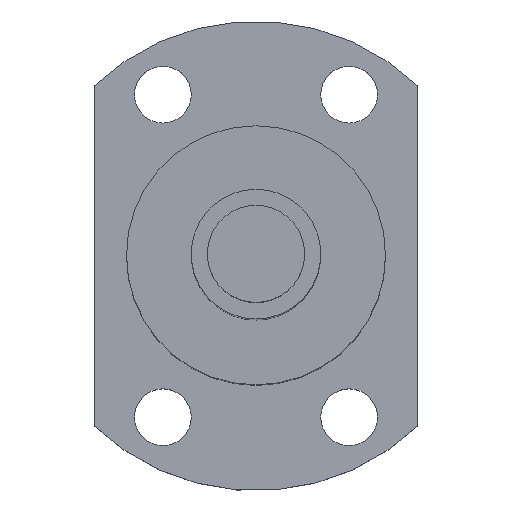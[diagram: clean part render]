
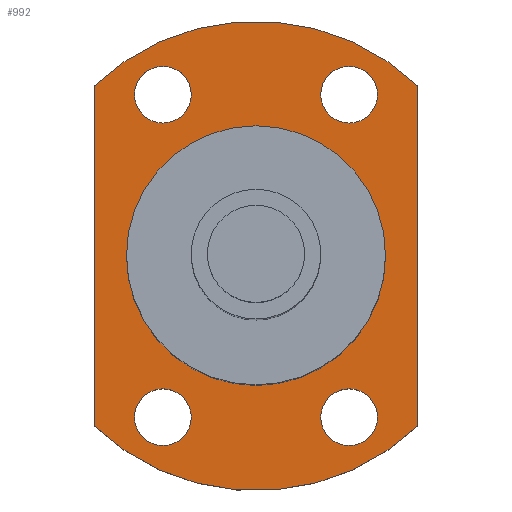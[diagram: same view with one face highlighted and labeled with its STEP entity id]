
A CAD part, top view. The second image highlights one B-rep face of the part: STEP entity #992.
In plain terms, the highlighted planar face has unit normal (0, 0, 1).
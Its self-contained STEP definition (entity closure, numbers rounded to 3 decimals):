
#219=CARTESIAN_POINT('',(5.75,9.959,95.));
#220=DIRECTION('',(0.,0.,-1.));
#221=DIRECTION('',(1.,0.,0.));
#222=AXIS2_PLACEMENT_3D('',#219,#220,#221);
#224=CARTESIAN_POINT('',(5.75,9.959,95.));
#225=DIRECTION('',(0.,0.,-1.));
#226=DIRECTION('',(-1.,0.,0.));
#227=AXIS2_PLACEMENT_3D('',#224,#225,#226);
#229=CARTESIAN_POINT('',(-5.75,9.959,95.));
#230=DIRECTION('',(0.,0.,-1.));
#231=DIRECTION('',(1.,0.,0.));
#232=AXIS2_PLACEMENT_3D('',#229,#230,#231);
#234=CARTESIAN_POINT('',(-5.75,9.959,95.));
#235=DIRECTION('',(0.,0.,-1.));
#236=DIRECTION('',(-1.,0.,0.));
#237=AXIS2_PLACEMENT_3D('',#234,#235,#236);
#239=CARTESIAN_POINT('',(5.75,-9.959,95.));
#240=DIRECTION('',(0.,0.,-1.));
#241=DIRECTION('',(1.,0.,0.));
#242=AXIS2_PLACEMENT_3D('',#239,#240,#241);
#244=CARTESIAN_POINT('',(5.75,-9.959,95.));
#245=DIRECTION('',(0.,0.,-1.));
#246=DIRECTION('',(-1.,0.,0.));
#247=AXIS2_PLACEMENT_3D('',#244,#245,#246);
#249=CARTESIAN_POINT('',(-5.75,-9.959,95.));
#250=DIRECTION('',(0.,0.,-1.));
#251=DIRECTION('',(1.,0.,0.));
#252=AXIS2_PLACEMENT_3D('',#249,#250,#251);
#254=CARTESIAN_POINT('',(-5.75,-9.959,95.));
#255=DIRECTION('',(0.,0.,-1.));
#256=DIRECTION('',(-1.,0.,0.));
#257=AXIS2_PLACEMENT_3D('',#254,#255,#256);
#259=CARTESIAN_POINT('',(0.,0.,95.));
#260=DIRECTION('',(0.,0.,1.));
#261=DIRECTION('',(0.69,0.724,0.));
#262=AXIS2_PLACEMENT_3D('',#259,#260,#261);
#264=DIRECTION('',(0.,1.,0.));
#265=VECTOR('',#264,21.);
#266=CARTESIAN_POINT('',(10.,-10.5,95.));
#267=LINE('',#266,#265);
#268=CARTESIAN_POINT('',(0.,0.,95.));
#269=DIRECTION('',(0.,0.,1.));
#270=DIRECTION('',(-0.69,-0.724,0.));
#271=AXIS2_PLACEMENT_3D('',#268,#269,#270);
#273=DIRECTION('',(0.,-1.,0.));
#274=VECTOR('',#273,21.);
#275=CARTESIAN_POINT('',(-10.,10.5,95.));
#276=LINE('',#275,#274);
#277=CARTESIAN_POINT('',(0.,0.,95.));
#278=DIRECTION('',(0.,0.,1.));
#279=DIRECTION('',(1.,0.,0.));
#280=AXIS2_PLACEMENT_3D('',#277,#278,#279);
#282=CARTESIAN_POINT('',(0.,0.,95.));
#283=DIRECTION('',(0.,0.,1.));
#284=DIRECTION('',(-1.,0.,0.));
#285=AXIS2_PLACEMENT_3D('',#282,#283,#284);
#573=CARTESIAN_POINT('',(7.5,9.959,95.));
#574=CARTESIAN_POINT('',(4.,9.959,95.));
#575=VERTEX_POINT('',#573);
#576=VERTEX_POINT('',#574);
#577=CARTESIAN_POINT('',(-4.,9.959,95.));
#578=CARTESIAN_POINT('',(-7.5,9.959,95.));
#579=VERTEX_POINT('',#577);
#580=VERTEX_POINT('',#578);
#581=CARTESIAN_POINT('',(7.5,-9.959,95.));
#582=CARTESIAN_POINT('',(4.,-9.959,95.));
#583=VERTEX_POINT('',#581);
#584=VERTEX_POINT('',#582);
#585=CARTESIAN_POINT('',(-4.,-9.959,95.));
#586=CARTESIAN_POINT('',(-7.5,-9.959,95.));
#587=VERTEX_POINT('',#585);
#588=VERTEX_POINT('',#586);
#589=CARTESIAN_POINT('',(-10.,10.5,95.));
#590=CARTESIAN_POINT('',(-10.,-10.5,95.));
#591=VERTEX_POINT('',#589);
#592=VERTEX_POINT('',#590);
#593=CARTESIAN_POINT('',(10.,-10.5,95.));
#594=CARTESIAN_POINT('',(10.,10.5,95.));
#595=VERTEX_POINT('',#593);
#596=VERTEX_POINT('',#594);
#605=CARTESIAN_POINT('',(8.,0.,95.));
#606=CARTESIAN_POINT('',(-8.,0.,95.));
#607=VERTEX_POINT('',#605);
#608=VERTEX_POINT('',#606);
#949=CARTESIAN_POINT('',(0.,0.,95.));
#950=DIRECTION('',(0.,0.,1.));
#951=DIRECTION('',(1.,0.,0.));
#952=AXIS2_PLACEMENT_3D('',#949,#950,#951);
#953=PLANE('',#952);
#955=ORIENTED_EDGE('',*,*,#954,.F.);
#957=ORIENTED_EDGE('',*,*,#956,.F.);
#959=ORIENTED_EDGE('',*,*,#958,.F.);
#961=ORIENTED_EDGE('',*,*,#960,.F.);
#962=EDGE_LOOP('',(#955,#957,#959,#961));
#963=FACE_OUTER_BOUND('',#962,.F.);
#964=ORIENTED_EDGE('',*,*,#929,.F.);
#965=ORIENTED_EDGE('',*,*,#943,.F.);
#966=EDGE_LOOP('',(#964,#965));
#967=FACE_BOUND('',#966,.F.);
#969=ORIENTED_EDGE('',*,*,#968,.F.);
#971=ORIENTED_EDGE('',*,*,#970,.F.);
#972=EDGE_LOOP('',(#969,#971));
#973=FACE_BOUND('',#972,.F.);
#975=ORIENTED_EDGE('',*,*,#974,.F.);
#977=ORIENTED_EDGE('',*,*,#976,.F.);
#978=EDGE_LOOP('',(#975,#977));
#979=FACE_BOUND('',#978,.F.);
#981=ORIENTED_EDGE('',*,*,#980,.F.);
#983=ORIENTED_EDGE('',*,*,#982,.F.);
#984=EDGE_LOOP('',(#981,#983));
#985=FACE_BOUND('',#984,.F.);
#987=ORIENTED_EDGE('',*,*,#986,.T.);
#989=ORIENTED_EDGE('',*,*,#988,.T.);
#990=EDGE_LOOP('',(#987,#989));
#991=FACE_BOUND('',#990,.F.);
#992=ADVANCED_FACE('',(#963,#967,#973,#979,#985,#991),#953,.T.);
#223=CIRCLE('',#222,1.75);
#228=CIRCLE('',#227,1.75);
#233=CIRCLE('',#232,1.75);
#238=CIRCLE('',#237,1.75);
#243=CIRCLE('',#242,1.75);
#248=CIRCLE('',#247,1.75);
#253=CIRCLE('',#252,1.75);
#258=CIRCLE('',#257,1.75);
#263=CIRCLE('',#262,14.5);
#272=CIRCLE('',#271,14.5);
#281=CIRCLE('',#280,8.);
#286=CIRCLE('',#285,8.);
#929=EDGE_CURVE('',#575,#576,#223,.T.);
#943=EDGE_CURVE('',#576,#575,#228,.T.);
#954=EDGE_CURVE('',#596,#591,#263,.T.);
#956=EDGE_CURVE('',#595,#596,#267,.T.);
#958=EDGE_CURVE('',#592,#595,#272,.T.);
#960=EDGE_CURVE('',#591,#592,#276,.T.);
#968=EDGE_CURVE('',#579,#580,#233,.T.);
#970=EDGE_CURVE('',#580,#579,#238,.T.);
#974=EDGE_CURVE('',#583,#584,#243,.T.);
#976=EDGE_CURVE('',#584,#583,#248,.T.);
#980=EDGE_CURVE('',#587,#588,#253,.T.);
#982=EDGE_CURVE('',#588,#587,#258,.T.);
#986=EDGE_CURVE('',#607,#608,#281,.T.);
#988=EDGE_CURVE('',#608,#607,#286,.T.);
